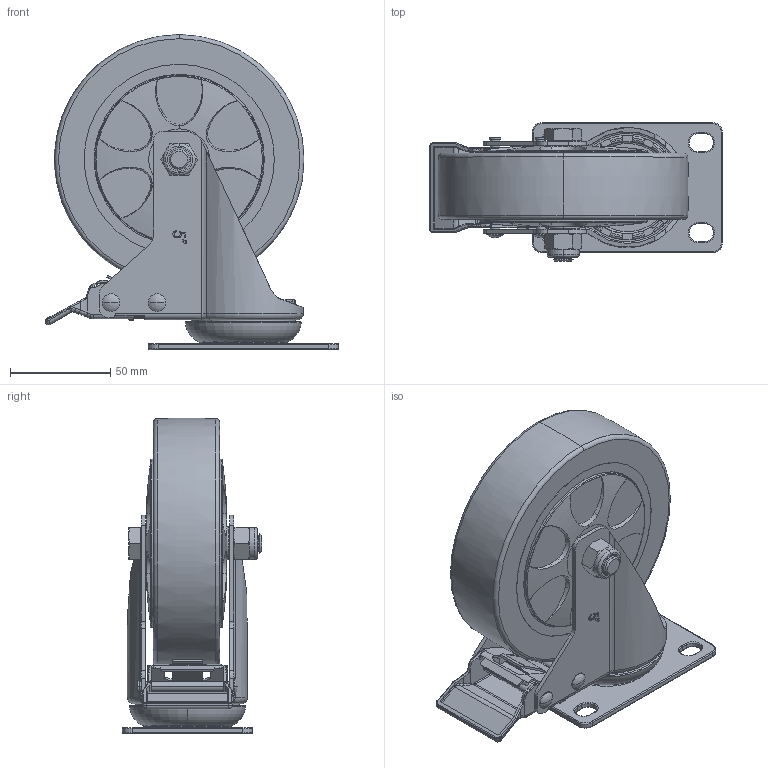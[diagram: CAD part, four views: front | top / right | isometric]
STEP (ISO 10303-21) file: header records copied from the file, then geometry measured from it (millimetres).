
FILE_DESCRIPTION (( 'STEP AP203' ), '1' );
FILE_NAME ('5寸中载PU带刹万向轮.STEP', '2023-03-06T08:57:43', ( 'amidn' ), ( '' ), 'SwSTEP 2.0', 'SolidWorks 2018', '' );
FILE_SCHEMA (( 'CONFIG_CONTROL_DESIGN' ));
Length unit declared in the file: millimetre
Products named in the file (11): 5寸中载PU带刹万向轮; 4__ ____11.STEP; 5______________PU-________.STEP; 4______.STEP; 4________________.STEP; 5寸中载PU-橡胶带刹万向轮.STEP; 4____________-0.STEP; hex bolt gradeab_din_DIN EN 24014 - M10 x 60 x 26-S.STEP; 4____________.STEP; prevailing trq nut style 1 insert fine_din_DIN EN ISO 10512 - M10x1.25 - S.STEP; 5______PU__.STEP
Assembly tree (11 placements, depth 3):
  5寸中载PU带刹万向轮
    5寸中载PU-橡胶带刹万向轮.STEP
      4________________.STEP
      5______________PU-________.STEP
      4__ ____11.STEP
      4____________.STEP
      4____________-0.STEP  x2
      4______.STEP
      5______PU__.STEP
      prevailing trq nut style 1 insert fine_din_DIN EN ISO 10512 - M10x1.25 - S.STEP
      hex bolt gradeab_din_DIN EN 24014 - M10 x 60 x 26-S.STEP
Bounding box: 146.21 x 69.5 x 157.47 mm (x, y, z)
Volume: 504971.5 mm3; surface area: 112116 mm2
Topology: 11 solids, 11 shells, 1046 faces, 2597 edges, 1607 vertices
Faces by surface type: plane 351, cylinder 288, cone 184, torus 149, bspline 68, sphere 6
Entity records: 38107 total; most frequent: CARTESIAN_POINT 12423, DIRECTION 5213, ORIENTED_EDGE 5132, EDGE_CURVE 2566, AXIS2_PLACEMENT_3D 2010, VERTEX_POINT 1593, LINE 1193, VECTOR 1193
